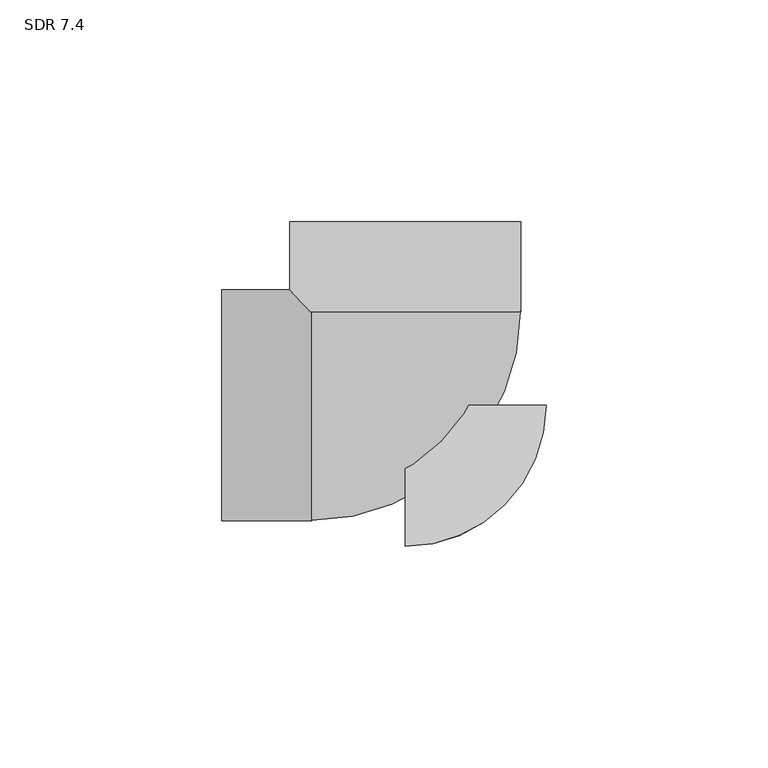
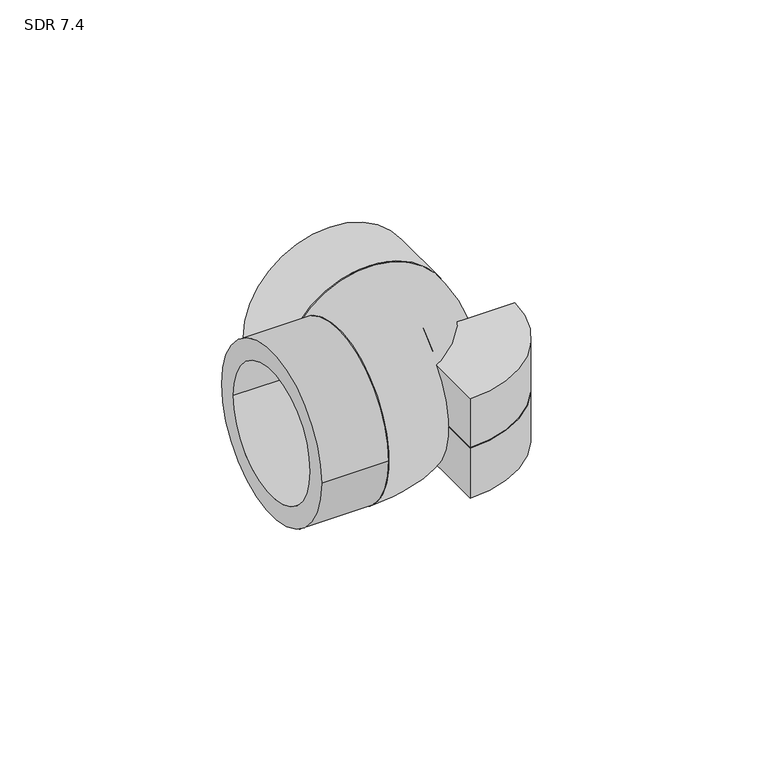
"""IFC4 building model written with IfcOpenShell, lengths in millimetres: pipe fitting geometry, Aquatherm - Elbow Socket : SDR 7.4."""

from ifc_helpers import new_model, si_unit, point, frame, origin, origin_with_axes, origin_2d, place, context, project, spatial, polyline, circle_curve, ellipse_curve, trimmed, segment, composite_curve, outline, extrude, source, transform, mapped, element, save
from ifc_brep_helpers import plane_surface, revolved_surface, advanced_brep


def sdr_7_4_d5995986(model_context):
    return source(origin(), model_context, "Body", "SolidModel", [
        extrude(outline(composite_curve([segment(polyline([(0.0, -31.75), (0.0, 0.0), (31.75, 0.0)]), True, "CONTINUOUS"), segment(trimmed(circle_curve(origin_2d(), 31.75), [point((31.75, 0.0))], [point((0.0, -31.75))], False, "CARTESIAN"), True, "CONTINUOUS")], self_intersect=False)), frame((0.0, 0.0, -15.875), z_axis=(0.0, 0.0, 1.0), x_axis=(1.0, 0.0, 0.0)), (0.0, 0.0, 1.0), 15.875),
        extrude(outline(composite_curve([segment(trimmed(circle_curve(origin_2d(), 31.75), [point((31.75, 0.0))], [point((0.0, -31.75))], False, "CARTESIAN"), True, "CONTINUOUS"), segment(polyline([(0.0, -31.75), (0.0, 0.0), (31.75, 0.0)]), True, "CONTINUOUS")], self_intersect=False)), origin_with_axes(), (0.0, 0.0, 1.0), 15.875),
        extrude(outline(composite_curve([segment(trimmed(circle_curve(origin_2d(), 26.035), [point((0.0, 26.035))], [point((0.0, -26.035))], False, "CARTESIAN"), True, "CONTINUOUS"), segment(trimmed(circle_curve(origin_2d(), 26.035), [point((0.0, -26.035))], [point((0.0, 26.035))], False, "CARTESIAN"), True, "CONTINUOUS")], self_intersect=False), holes=[composite_curve([segment(trimmed(circle_curve(origin_2d(), 19.939), [point((0.0, 19.939))], [point((0.0, -19.939))], True, "CARTESIAN"), True, "CONTINUOUS"), segment(trimmed(circle_curve(origin_2d(), 19.939), [point((0.0, -19.939))], [point((0.0, 19.939))], True, "CARTESIAN"), True, "CONTINUOUS")], self_intersect=False)]), frame((0.0, 21.082, 0.0), z_axis=(0.0, 1.0, 0.0), x_axis=(0.0, 0.0, 1.0)), (0.0, 0.0, 1.0), 20.32),
        advanced_brep(
        [(-21.082, 21.082, -15.2764689), (-21.082, 21.082, 15.2764689), (-21.082, -14.4003889, 0.0), (-21.082, 14.4003889, 0.0), (14.4003889, 21.082, 0.0), (-14.4003889, 21.082, 0.0)],
        [
            (0, 1, circle_curve(frame((-21.082, 0.0, 0.0), z_axis=(-1.0, 0.0, 0.0), x_axis=(0.0, 1.0, 0.0)), 26.035)),
            (1, 0),
            (2, 3, circle_curve(frame((-21.082, 0.0, 0.0), z_axis=(1.0, 0.0, 0.0), x_axis=(0.0, 1.0, 0.0)), 14.4003889)),
            (3, 2, circle_curve(frame((-21.082, 0.0, 0.0), z_axis=(1.0, 0.0, 0.0), x_axis=(0.0, 1.0, 0.0)), 14.4003889)),
            (1, 0, circle_curve(frame((0.0, 21.082, 0.0), z_axis=(0.0, 1.0, 0.0), x_axis=(-1.0, 0.0, 0.0)), 26.035)),
            (4, 5, circle_curve(frame((0.0, 21.082, 0.0), z_axis=(0.0, -1.0, 0.0), x_axis=(-1.0, 0.0, 0.0)), 14.4003889)),
            (5, 4, circle_curve(frame((0.0, 21.082, 0.0), z_axis=(0.0, -1.0, 0.0), x_axis=(-1.0, 0.0, 0.0)), 14.4003889)),
            (5, 3, circle_curve(frame((-21.082, 21.082, 0.0), z_axis=(0.0, 0.0, -1.0), x_axis=(0.0, -1.0, 0.0)), 6.6816111)),
            (2, 4, circle_curve(frame((-21.082, 21.082, 0.0), z_axis=(0.0, 0.0, 1.0), x_axis=(0.0, -1.0, 0.0)), 35.4823889)),
        ],
        [
            plane_surface(frame((-21.082, 21.082, 72.4264689), z_axis=(-1.0, 0.0, 0.0), x_axis=(0.0, -1.0, 0.0))),
            plane_surface(frame((-21.082, 21.082, 72.4264689), z_axis=(0.0, 1.0, 0.0), x_axis=(1.0, 0.0, 0.0))),
            revolved_surface(trimmed(ellipse_curve(frame((-21.082, 0.0, 0.0), z_axis=(1.0, 0.0, 0.0), x_axis=(0.0, 1.0, 0.0)), 26.035, 26.035), [point((-21.082, 21.082, 15.2764689))], [point((-21.082, 21.082, -15.2764689))], True, "CARTESIAN"), (-21.082, 21.082, 72.4264689), (0.0, 0.0, -1.0)),
            revolved_surface(trimmed(ellipse_curve(frame((-21.082, 0.0, 0.0), z_axis=(-1.0, 0.0, 0.0), x_axis=(0.0, 1.0, 0.0)), 14.4003889, 14.4003889), [point((-21.082, 14.4003889, 0.0))], [point((-21.082, -14.4003889, 0.0))], True, "CARTESIAN"), (-21.082, 21.082, 72.4264689), (0.0, 0.0, -1.0)),
            revolved_surface(trimmed(ellipse_curve(frame((-21.082, 0.0, 0.0), z_axis=(-1.0, 0.0, 0.0), x_axis=(0.0, 1.0, 0.0)), 14.4003889, 14.4003889), [point((-21.082, -14.4003889, 0.0))], [point((-21.082, 14.4003889, 0.0))], True, "CARTESIAN"), (-21.082, 21.082, 72.4264689), (0.0, 0.0, -1.0)),
        ],
        [
            (0, [[1, 2], [3, 4]]),
            (1, [[5, -2], [6, 7]]),
            (2, [[-1, -5]]),
            (3, [[8, -3, 9, -7]]),
            (4, [[-9, -4, -8, -6]]),
        ],
    ),
        extrude(outline(composite_curve([segment(trimmed(circle_curve(origin_2d(), 26.035), [point((26.035, 0.0))], [point((-26.035, 0.0))], False, "CARTESIAN"), True, "CONTINUOUS"), segment(trimmed(circle_curve(origin_2d(), 26.035), [point((-26.035, 0.0))], [point((26.035, 0.0))], False, "CARTESIAN"), True, "CONTINUOUS")], self_intersect=False), holes=[composite_curve([segment(trimmed(circle_curve(origin_2d(), 19.939), [point((19.939, 0.0))], [point((-19.939, 0.0))], True, "CARTESIAN"), True, "CONTINUOUS"), segment(trimmed(circle_curve(origin_2d(), 19.939), [point((-19.939, 0.0))], [point((19.939, 0.0))], True, "CARTESIAN"), True, "CONTINUOUS")], self_intersect=False)]), frame((-41.402, 0.0, 0.0), z_axis=(1.0, 0.0, 0.0), x_axis=(0.0, 1.0, 0.0)), (0.0, 0.0, 1.0), 20.32),
    ])


if __name__ == "__main__":
    model = new_model("IFC4")
    model_context = context("Model", 3, world=origin())
    ifc_project = project(units=[si_unit("LENGTHUNIT", "METRE", prefix="MILLI")], contexts=[model_context])
    site = spatial("IfcSite", under=ifc_project)
    building = spatial("IfcBuilding", under=site)
    placement = place(None, origin())
    sdr_7_4_shape = sdr_7_4_d5995986(model_context)
    element("IfcPipeFitting", 1, ObjectType="Aquatherm - Elbow Socket : SDR 7.4", at=placement, inside=building, context=model_context, shape_type="MappedRepresentation", body=[
        mapped(sdr_7_4_shape, transform((0.0, 0.0, 0.0), x_axis=(1.0, 0.0, 0.0), y_axis=(0.0, 1.0, 0.0), z_axis=(0.0, 0.0, 1.0))),
    ])
    save(model, "model.ifc")
